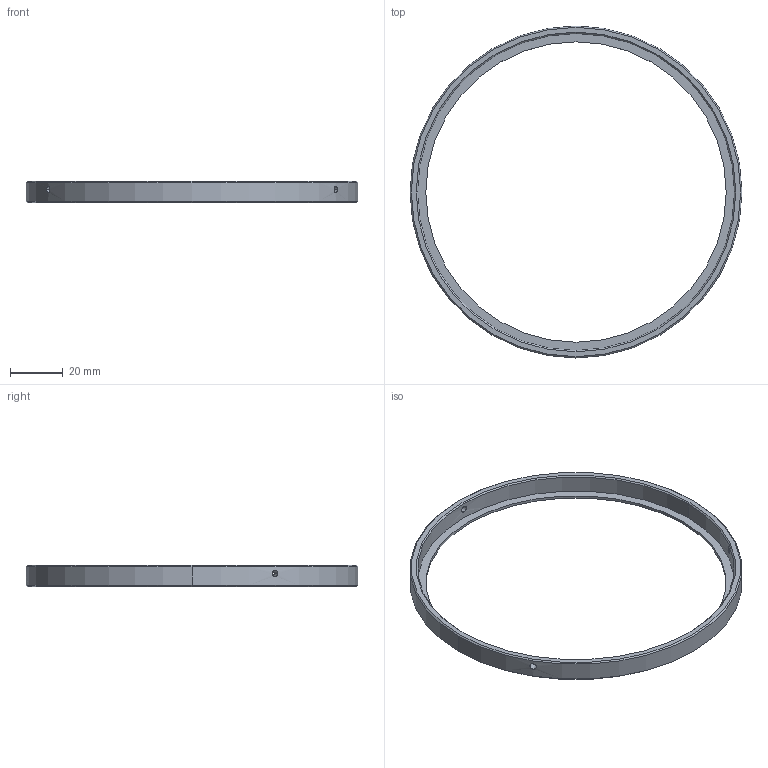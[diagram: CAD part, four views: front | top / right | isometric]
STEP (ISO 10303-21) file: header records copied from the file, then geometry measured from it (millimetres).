
FILE_DESCRIPTION (( 'STEP AP203' ), '1' );
FILE_NAME ('CV-AD-R-120X58-50(IMC-AD-R-120X58-50).STEP', '2024-03-26T06:41:35', ( '' ), ( '' ), 'SwSTEP 2.0', 'SolidWorks 2020', '' );
FILE_SCHEMA (( 'CONFIG_CONTROL_DESIGN' ));
Length unit declared in the file: millimetre
Products named in the file (1): CV-AD-R-120X58-50(IMC-AD-R-120X58-50)
Bounding box: 126 x 126 x 8 mm (x, y, z)
Volume: 9792.2 mm3; surface area: 10389.1 mm2
Topology: 1 solids, 1 shells, 21 faces, 48 edges, 30 vertices
Faces by surface type: cylinder 12, cone 6, plane 3
Entity records: 889 total; most frequent: CARTESIAN_POINT 328, DIRECTION 98, ORIENTED_EDGE 96, EDGE_CURVE 48, AXIS2_PLACEMENT_3D 40, EDGE_LOOP 30, VERTEX_POINT 30, ADVANCED_FACE 21
